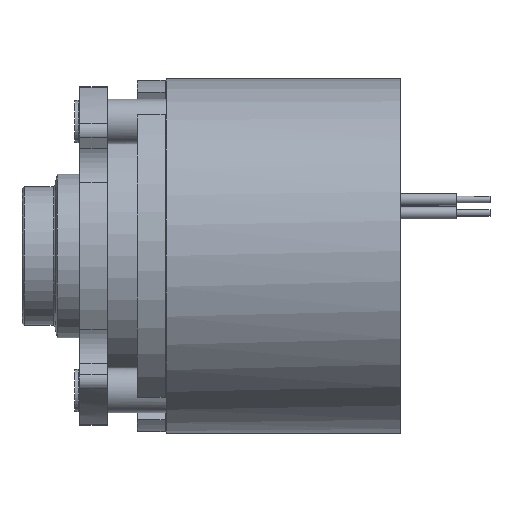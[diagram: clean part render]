
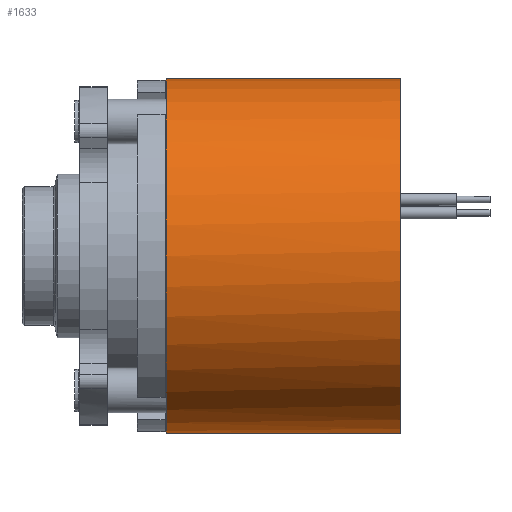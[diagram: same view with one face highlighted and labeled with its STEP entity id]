
A CAD part, front view. The second image highlights one B-rep face of the part: STEP entity #1633.
In plain terms, the highlighted cylindrical face has radius 16 mm (diameter 32 mm), a full revolution.
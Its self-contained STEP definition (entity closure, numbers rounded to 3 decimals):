
#67 = CIRCLE ( 'NONE', #499, 16. ) ;
#105 = EDGE_CURVE ( 'NONE', #2567, #1060, #2791, .T. ) ;
#150 = CARTESIAN_POINT ( 'NONE',  ( 0., 15.468, 4.092 ) ) ;
#296 = EDGE_CURVE ( 'NONE', #334, #2447, #67, .T. ) ;
#334 = VERTEX_POINT ( 'NONE', #1333 ) ;
#394 = DIRECTION ( 'NONE',  ( -1., 0., 0. ) ) ;
#409 = CIRCLE ( 'NONE', #1908, 16. ) ;
#490 = EDGE_LOOP ( 'NONE', ( #517, #692, #1933, #745 ) ) ;
#499 = AXIS2_PLACEMENT_3D ( 'NONE', #1974, #2855, #1760 ) ;
#517 = ORIENTED_EDGE ( 'NONE', *, *, #105, .T. ) ;
#597 = EDGE_CURVE ( 'NONE', #334, #2567, #1593, .T. ) ;
#601 = EDGE_CURVE ( 'NONE', #1060, #2447, #1042, .T. ) ;
#634 = CARTESIAN_POINT ( 'NONE',  ( 21.1, 13.969, 7.801 ) ) ;
#692 = ORIENTED_EDGE ( 'NONE', *, *, #601, .T. ) ;
#745 = ORIENTED_EDGE ( 'NONE', *, *, #597, .T. ) ;
#820 = DIRECTION ( 'NONE',  ( 0., 0., 1. ) ) ;
#1005 = VECTOR ( 'NONE', #2351, 1000. ) ;
#1014 = DIRECTION ( 'NONE',  ( -1., 0., 0. ) ) ;
#1022 = CARTESIAN_POINT ( 'NONE',  ( 0., 13.969, 7.801 ) ) ;
#1042 = LINE ( 'NONE', #1022, #2166 ) ;
#1060 = VERTEX_POINT ( 'NONE', #634 ) ;
#1114 = CYLINDRICAL_SURFACE ( 'NONE', #2322, 16. ) ;
#1333 = CARTESIAN_POINT ( 'NONE',  ( 16.2, 15.468, 4.092 ) ) ;
#1353 = CARTESIAN_POINT ( 'NONE',  ( 0., 0., 0. ) ) ;
#1424 = VERTEX_POINT ( 'NONE', #2716 ) ;
#1449 = CARTESIAN_POINT ( 'NONE',  ( 16.2, 13.969, 7.801 ) ) ;
#1502 = ORIENTED_EDGE ( 'NONE', *, *, #2631, .F. ) ;
#1591 = AXIS2_PLACEMENT_3D ( 'NONE', #2804, #1014, #2372 ) ;
#1593 = LINE ( 'NONE', #150, #1005 ) ;
#1633 = ADVANCED_FACE ( 'NONE', ( #1769, #2609 ), #1114, .T. ) ;
#1760 = DIRECTION ( 'NONE',  ( 0., 0., -1. ) ) ;
#1769 = FACE_OUTER_BOUND ( 'NONE', #490, .T. ) ;
#1807 = DIRECTION ( 'NONE',  ( -1., 0., 0. ) ) ;
#1860 = DIRECTION ( 'NONE',  ( -1., 0., 0. ) ) ;
#1908 = AXIS2_PLACEMENT_3D ( 'NONE', #1938, #394, #820 ) ;
#1933 = ORIENTED_EDGE ( 'NONE', *, *, #296, .F. ) ;
#1938 = CARTESIAN_POINT ( 'NONE',  ( 0., 0., 0. ) ) ;
#1974 = CARTESIAN_POINT ( 'NONE',  ( 16.2, 0., 0. ) ) ;
#2106 = DIRECTION ( 'NONE',  ( 0., 0., 1. ) ) ;
#2166 = VECTOR ( 'NONE', #1860, 1000. ) ;
#2189 = EDGE_LOOP ( 'NONE', ( #1502 ) ) ;
#2322 = AXIS2_PLACEMENT_3D ( 'NONE', #1353, #1807, #2106 ) ;
#2351 = DIRECTION ( 'NONE',  ( 1., 0., 0. ) ) ;
#2372 = DIRECTION ( 'NONE',  ( 0., 0., 1. ) ) ;
#2447 = VERTEX_POINT ( 'NONE', #1449 ) ;
#2567 = VERTEX_POINT ( 'NONE', #2830 ) ;
#2609 = FACE_OUTER_BOUND ( 'NONE', #2189, .T. ) ;
#2631 = EDGE_CURVE ( 'NONE', #1424, #1424, #409, .T. ) ;
#2716 = CARTESIAN_POINT ( 'NONE',  ( 0., 0., 16. ) ) ;
#2791 = CIRCLE ( 'NONE', #1591, 16. ) ;
#2804 = CARTESIAN_POINT ( 'NONE',  ( 21.1, 0., 0. ) ) ;
#2830 = CARTESIAN_POINT ( 'NONE',  ( 21.1, 15.468, 4.092 ) ) ;
#2855 = DIRECTION ( 'NONE',  ( 1., 0., 0. ) ) ;
